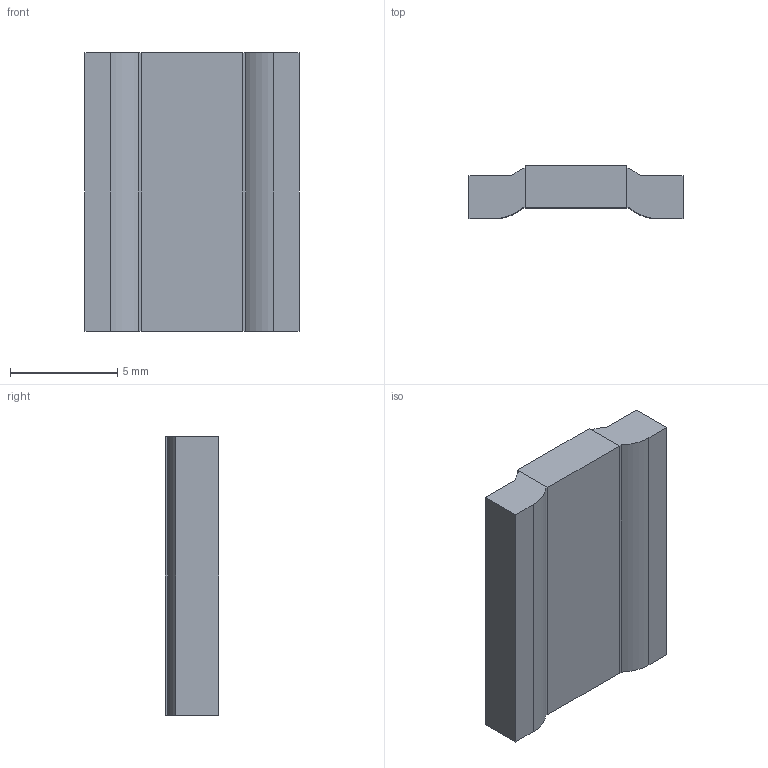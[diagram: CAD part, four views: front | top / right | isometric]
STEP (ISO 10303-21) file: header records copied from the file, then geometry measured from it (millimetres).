
FILE_DESCRIPTION (( 'STEP AP203' ), '1' );
FILE_NAME ('SEWF3951-0.25m¦¸.STEP', '2023-11-22T07:52:27', ( 'meks@163.com' ), ( '' ), 'SwSTEP 2.0', 'SolidWorks 2020', '' );
FILE_SCHEMA (( 'CONFIG_CONTROL_DESIGN' ));
Length unit declared in the file: millimetre
Products named in the file (1): SEWF3951-0.25m次
Bounding box: 10 x 2.5 x 13 mm (x, y, z)
Volume: 256.4 mm3; surface area: 458.2 mm2
Topology: 3 solids, 3 shells, 24 faces, 54 edges, 36 vertices
Faces by surface type: plane 20, cylinder 4
Entity records: 739 total; most frequent: CARTESIAN_POINT 115, DIRECTION 112, ORIENTED_EDGE 108, EDGE_CURVE 54, LINE 46, VECTOR 46, VERTEX_POINT 36, AXIS2_PLACEMENT_3D 33
